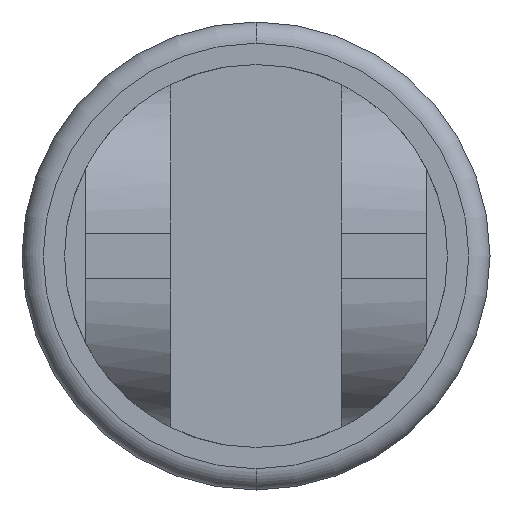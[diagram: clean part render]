
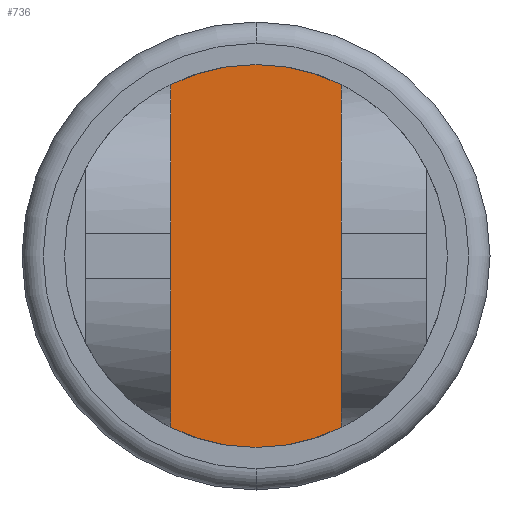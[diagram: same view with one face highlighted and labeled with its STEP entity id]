
A CAD part, front view. The second image highlights one B-rep face of the part: STEP entity #736.
In plain terms, the highlighted planar face has unit normal (0, -1, 0).
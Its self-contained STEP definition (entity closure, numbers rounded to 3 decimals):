
#60 = CARTESIAN_POINT ( 'NONE',  ( -4., -140., -8.062 ) ) ;
#77 = CIRCLE ( 'NONE', #291, 9. ) ;
#144 = CARTESIAN_POINT ( 'NONE',  ( 0., -140., 0. ) ) ;
#155 = DIRECTION ( 'NONE',  ( 0., 0., 1. ) ) ;
#164 = EDGE_LOOP ( 'NONE', ( #1772, #1284, #819, #827, #1488, #1855 ) ) ;
#173 = FACE_OUTER_BOUND ( 'NONE', #164, .T. ) ;
#243 = CARTESIAN_POINT ( 'NONE',  ( 0., -140., 0. ) ) ;
#291 = AXIS2_PLACEMENT_3D ( 'NONE', #243, #782, #784 ) ;
#317 = AXIS2_PLACEMENT_3D ( 'NONE', #677, #882, #937 ) ;
#393 = CIRCLE ( 'NONE', #733, 9. ) ;
#400 = VERTEX_POINT ( 'NONE', #500 ) ;
#434 = VERTEX_POINT ( 'NONE', #1692 ) ;
#457 = LINE ( 'NONE', #60, #527 ) ;
#466 = EDGE_CURVE ( 'NONE', #400, #1743, #934, .T. ) ;
#500 = CARTESIAN_POINT ( 'NONE',  ( 4., -140., -8.062 ) ) ;
#526 = EDGE_CURVE ( 'NONE', #434, #1219, #77, .T. ) ;
#527 = VECTOR ( 'NONE', #1253, 1000. ) ;
#630 = VERTEX_POINT ( 'NONE', #1773 ) ;
#676 = CIRCLE ( 'NONE', #1404, 9. ) ;
#677 = CARTESIAN_POINT ( 'NONE',  ( 0., -140., 0. ) ) ;
#702 = DIRECTION ( 'NONE',  ( 0., 0., -1. ) ) ;
#712 = CARTESIAN_POINT ( 'NONE',  ( 0., -140., 0. ) ) ;
#733 = AXIS2_PLACEMENT_3D ( 'NONE', #144, #1563, #1255 ) ;
#736 = ADVANCED_FACE ( 'NONE', ( #173 ), #756, .T. ) ;
#756 = PLANE ( 'NONE',  #317 ) ;
#782 = DIRECTION ( 'NONE',  ( 0., 1., 0. ) ) ;
#784 = DIRECTION ( 'NONE',  ( 0., 0., 1. ) ) ;
#796 = LINE ( 'NONE', #1679, #843 ) ;
#819 = ORIENTED_EDGE ( 'NONE', *, *, #526, .F. ) ;
#821 = VERTEX_POINT ( 'NONE', #1407 ) ;
#827 = ORIENTED_EDGE ( 'NONE', *, *, #1346, .F. ) ;
#835 = CARTESIAN_POINT ( 'NONE',  ( 0., -140., 0. ) ) ;
#843 = VECTOR ( 'NONE', #702, 1000. ) ;
#882 = DIRECTION ( 'NONE',  ( 0., -1., 0. ) ) ;
#934 = CIRCLE ( 'NONE', #1838, 9. ) ;
#937 = DIRECTION ( 'NONE',  ( 0., 0., 1. ) ) ;
#1172 = DIRECTION ( 'NONE',  ( 0., 1., 0. ) ) ;
#1219 = VERTEX_POINT ( 'NONE', #1272 ) ;
#1253 = DIRECTION ( 'NONE',  ( 0., 0., 1. ) ) ;
#1255 = DIRECTION ( 'NONE',  ( 0., 0., 1. ) ) ;
#1272 = CARTESIAN_POINT ( 'NONE',  ( 4., -140., 8.062 ) ) ;
#1284 = ORIENTED_EDGE ( 'NONE', *, *, #1432, .F. ) ;
#1346 = EDGE_CURVE ( 'NONE', #630, #434, #393, .T. ) ;
#1392 = EDGE_CURVE ( 'NONE', #821, #630, #457, .T. ) ;
#1404 = AXIS2_PLACEMENT_3D ( 'NONE', #835, #1880, #1744 ) ;
#1407 = CARTESIAN_POINT ( 'NONE',  ( -4., -140., -8.062 ) ) ;
#1432 = EDGE_CURVE ( 'NONE', #1219, #400, #796, .T. ) ;
#1441 = CARTESIAN_POINT ( 'NONE',  ( 0., -140., -9. ) ) ;
#1488 = ORIENTED_EDGE ( 'NONE', *, *, #1392, .F. ) ;
#1563 = DIRECTION ( 'NONE',  ( 0., 1., 0. ) ) ;
#1679 = CARTESIAN_POINT ( 'NONE',  ( 4., -140., -8.062 ) ) ;
#1692 = CARTESIAN_POINT ( 'NONE',  ( 0., -140., 9. ) ) ;
#1743 = VERTEX_POINT ( 'NONE', #1441 ) ;
#1744 = DIRECTION ( 'NONE',  ( 0., 0., 1. ) ) ;
#1772 = ORIENTED_EDGE ( 'NONE', *, *, #466, .F. ) ;
#1773 = CARTESIAN_POINT ( 'NONE',  ( -4., -140., 8.062 ) ) ;
#1838 = AXIS2_PLACEMENT_3D ( 'NONE', #712, #1172, #155 ) ;
#1855 = ORIENTED_EDGE ( 'NONE', *, *, #1920, .F. ) ;
#1880 = DIRECTION ( 'NONE',  ( 0., 1., 0. ) ) ;
#1920 = EDGE_CURVE ( 'NONE', #1743, #821, #676, .T. ) ;
